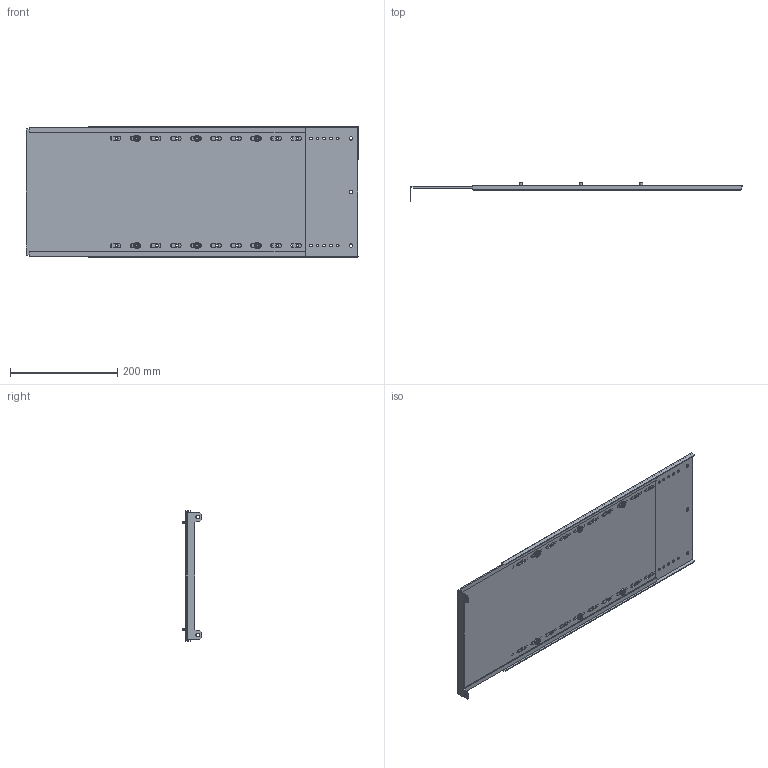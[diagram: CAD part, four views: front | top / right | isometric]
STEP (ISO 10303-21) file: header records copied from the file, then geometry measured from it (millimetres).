
FILE_DESCRIPTION (( 'STEP AP214' ), '1' );
FILE_NAME ('FO-00-SWVB-025-060 Ïåðåãîðîäêà ñåêöèîíèðîâàíèÿ âåðòèêàëüíàÿ äëÿ âåðòèêàëüíîãî øèííîãî îòñåêà 250õ600 ìì â øêàô ãëóáèíîé 1000 ìì.STEP', '2025-08-08T09:11:57', ( '' ), ( '' ), 'SwSTEP 2.0', 'SolidWorks 2023', '' );
FILE_SCHEMA (( 'AUTOMOTIVE_DESIGN' ));
Length unit declared in the file: millimetre
Products named in the file (4): FO-00-SWVB-025-060 Перегородка секционирования вертикальная для вертикального шинного отсека 250х600 мм в шкаф глубиной 1000 мм; Перегородка секционирования 250х600; Перегородка секционирования ап 250х600; Болты М5 х250
Assembly tree (5 placements, depth 2):
  FO-00-SWVB-025-060 Перегородка секционирования вертикальная для вертикального шинного отсека 250х600 мм в шкаф глубиной 1000 мм
    Перегородка секционирования 250х600
    Перегородка секционирования ап 250х600
    Болты М5 х250  x3
Bounding box: 619.75 x 35.7 x 244.5 mm (x, y, z)
Volume: 399137.2 mm3; surface area: 523144.6 mm2
Topology: 8 solids, 8 shells, 460 faces, 1260 edges, 828 vertices
Faces by surface type: cylinder 308, plane 116, torus 24, cone 12
Entity records: 11990 total; most frequent: DIRECTION 2172, CARTESIAN_POINT 1988, ORIENTED_EDGE 1968, EDGE_CURVE 984, AXIS2_PLACEMENT_3D 836, VERTEX_POINT 652, EDGE_LOOP 542, LINE 500
